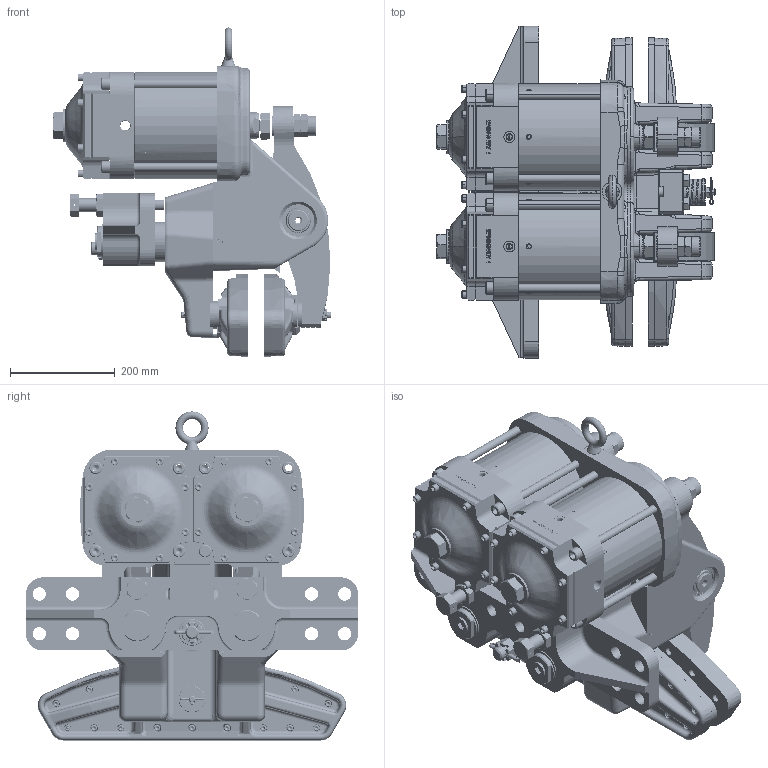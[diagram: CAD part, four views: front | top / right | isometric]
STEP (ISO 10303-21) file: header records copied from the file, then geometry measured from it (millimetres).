
FILE_DESCRIPTION (( 'STEP AP214' ), '1' );
FILE_NAME ('5065-SH.STEP', '2022-07-22T21:17:08', ( '' ), ( '' ), 'SwSTEP 2.0', 'SolidWorks 2021', '' );
FILE_SCHEMA (( 'AUTOMOTIVE_DESIGN' ));
Length unit declared in the file: inch
Products named in the file (1): 5065-SH
Bounding box: 533.12 x 635 x 629.74 mm (x, y, z)
Surface area: 2665196.7 mm2 (no closed solid volume)
Topology: 0 solids, 230 shells, 2911 faces, 8947 edges, 6059 vertices
Faces by surface type: plane 916, cylinder 836, cone 584, bspline 332, torus 197, sphere 46
Entity records: 164888 total; most frequent: CARTESIAN_POINT 52265, DIRECTION 15282, ORIENTED_EDGE 14455, EDGE_CURVE 8847, VERTEX_POINT 6059, AXIS2_PLACEMENT_3D 5862, VECTOR 3558, LINE 3558
